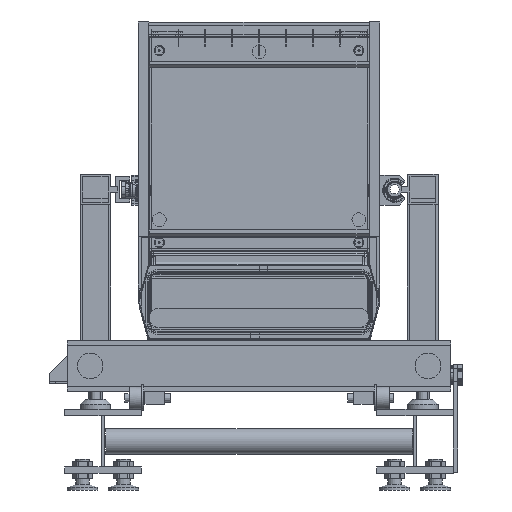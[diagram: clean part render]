
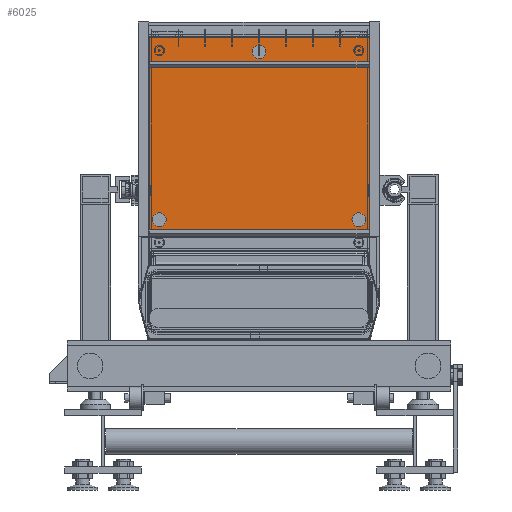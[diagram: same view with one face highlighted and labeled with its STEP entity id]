
A CAD part, left-side view. The second image highlights one B-rep face of the part: STEP entity #6025.
In plain terms, the highlighted planar face has unit normal (-1, 0, 0).
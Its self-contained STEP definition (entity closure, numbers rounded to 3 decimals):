
#6025=ADVANCED_FACE('',(#13135,#13136,#13137,#13138),#10436,.F.);
#10436=PLANE('',#73791);
#13135=FACE_BOUND('',#15872,.T.);
#13136=FACE_BOUND('',#15873,.T.);
#13137=FACE_BOUND('',#15874,.T.);
#13138=FACE_BOUND('',#15875,.T.);
#15872=EDGE_LOOP('',(#25843));
#15873=EDGE_LOOP('',(#25844,#25845,#25846,#25847));
#15874=EDGE_LOOP('',(#25848));
#15875=EDGE_LOOP('',(#25849));
#21632=CIRCLE('',#73788,13.5);
#21633=CIRCLE('',#73789,13.5);
#21634=CIRCLE('',#73790,13.5);
#25843=ORIENTED_EDGE('',*,*,#51604,.F.);
#25844=ORIENTED_EDGE('',*,*,#51605,.F.);
#25845=ORIENTED_EDGE('',*,*,#51606,.F.);
#25846=ORIENTED_EDGE('',*,*,#51607,.F.);
#25847=ORIENTED_EDGE('',*,*,#51608,.F.);
#25848=ORIENTED_EDGE('',*,*,#51609,.F.);
#25849=ORIENTED_EDGE('',*,*,#51610,.F.);
#44600=VERTEX_POINT('',#104394);
#44601=VERTEX_POINT('',#104396);
#44602=VERTEX_POINT('',#104397);
#44603=VERTEX_POINT('',#104399);
#44604=VERTEX_POINT('',#104401);
#44605=VERTEX_POINT('',#104404);
#44606=VERTEX_POINT('',#104406);
#51604=EDGE_CURVE('',#44600,#44600,#21632,.T.);
#51605=EDGE_CURVE('',#44601,#44602,#61157,.T.);
#51606=EDGE_CURVE('',#44603,#44601,#61158,.T.);
#51607=EDGE_CURVE('',#44604,#44603,#61159,.T.);
#51608=EDGE_CURVE('',#44602,#44604,#61160,.T.);
#51609=EDGE_CURVE('',#44605,#44605,#21633,.T.);
#51610=EDGE_CURVE('',#44606,#44606,#21634,.T.);
#61157=LINE('',#104395,#67442);
#61158=LINE('',#104398,#67443);
#61159=LINE('',#104400,#67444);
#61160=LINE('',#104402,#67445);
#67442=VECTOR('',#82425,1.);
#67443=VECTOR('',#82426,1.);
#67444=VECTOR('',#82427,1.);
#67445=VECTOR('',#82428,1.);
#73788=AXIS2_PLACEMENT_3D('',#104393,#82423,#82424);
#73789=AXIS2_PLACEMENT_3D('',#104403,#82429,#82430);
#73790=AXIS2_PLACEMENT_3D('',#104405,#82431,#82432);
#73791=AXIS2_PLACEMENT_3D('',#104407,#82433,#82434);
#82423=DIRECTION('',(-1.,0.,0.));
#82424=DIRECTION('',(0.,1.,0.));
#82425=DIRECTION('',(0.,1.,0.));
#82426=DIRECTION('',(0.,0.,-1.));
#82427=DIRECTION('',(0.,-1.,0.));
#82428=DIRECTION('',(0.,0.,1.));
#82429=DIRECTION('',(-1.,0.,0.));
#82430=DIRECTION('',(0.,1.,0.));
#82431=DIRECTION('',(-1.,0.,0.));
#82432=DIRECTION('',(0.,1.,0.));
#82433=DIRECTION('',(1.,0.,0.));
#82434=DIRECTION('',(0.,1.,0.));
#104393=CARTESIAN_POINT('',(1669.75,-195.,528.354));
#104394=CARTESIAN_POINT('',(1669.75,-181.5,528.354));
#104395=CARTESIAN_POINT('',(1669.75,0.,461.354));
#104396=CARTESIAN_POINT('',(1669.75,-215.,461.354));
#104397=CARTESIAN_POINT('',(1669.75,215.,461.354));
#104398=CARTESIAN_POINT('',(1669.75,-215.,884.354));
#104399=CARTESIAN_POINT('',(1669.75,-215.,884.354));
#104400=CARTESIAN_POINT('',(1669.75,215.,884.354));
#104401=CARTESIAN_POINT('',(1669.75,215.,884.354));
#104402=CARTESIAN_POINT('',(1669.75,215.,461.354));
#104403=CARTESIAN_POINT('',(1669.75,0.,856.354));
#104404=CARTESIAN_POINT('',(1669.75,13.5,856.354));
#104405=CARTESIAN_POINT('',(1669.75,195.,528.354));
#104406=CARTESIAN_POINT('',(1669.75,208.5,528.354));
#104407=CARTESIAN_POINT('',(1669.75,215.,461.354));
